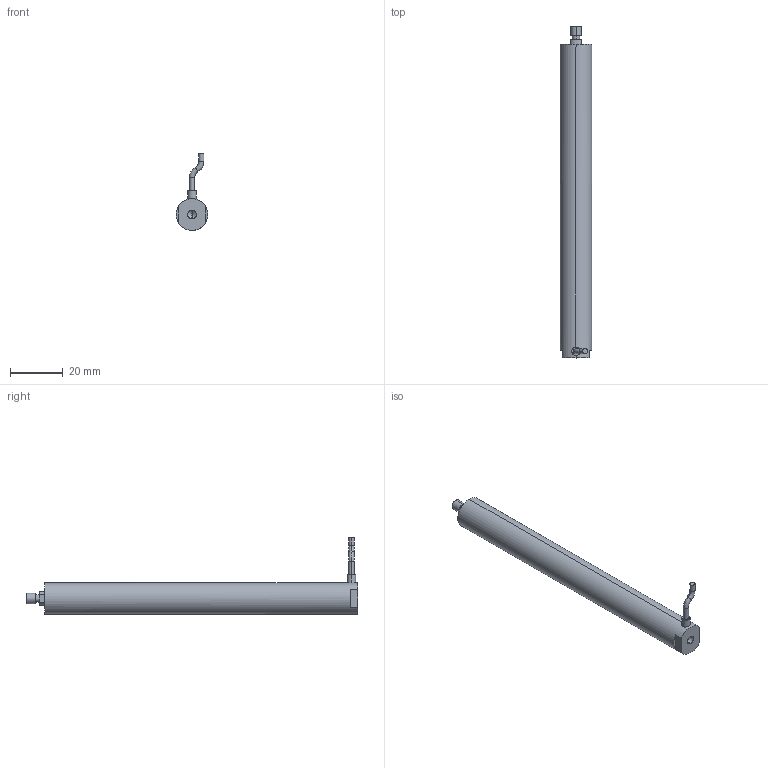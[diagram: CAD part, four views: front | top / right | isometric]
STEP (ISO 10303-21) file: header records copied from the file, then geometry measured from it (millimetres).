
FILE_DESCRIPTION (( 'STEP AP203' ), '1' );
FILE_NAME ('俋蹟恇宒120VS12.STEP', '2020-08-19T06:01:41', ( 'User' ), ( 'china' ), 'SwSTEP 2.0', 'SolidWorks 2016', '' );
FILE_SCHEMA (( 'CONFIG_CONTROL_DESIGN' ));
Products named in the file (1): 俋蹟恇宒120VS12
Bounding box: 12 x 125.6 x 29.08 mm (x, y, z)
Volume: 13493.4 mm3; surface area: 4993 mm2
Topology: 1 solids, 1 shells, 939 faces, 2522 edges, 1677 vertices
Faces by surface type: bspline 509, plane 318, cylinder 106, torus 4, cone 2
Entity records: 43610 total; most frequent: CARTESIAN_POINT 24557, ORIENTED_EDGE 5040, EDGE_CURVE 2520, DIRECTION 1993, VERTEX_POINT 1677, B_SPLINE_CURVE_WITH_KNOTS 1673, EDGE_LOOP 1033, ADVANCED_FACE 939
